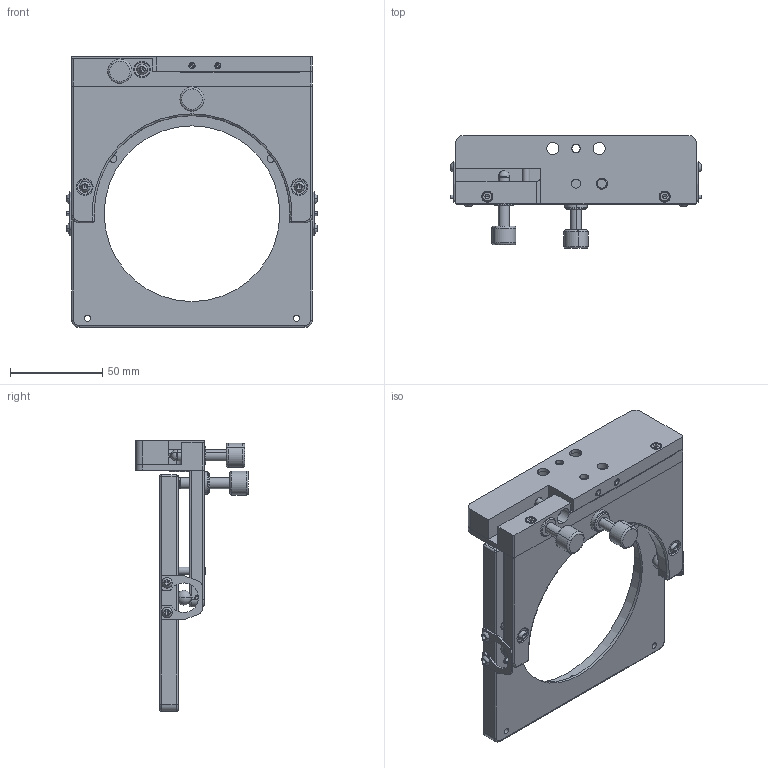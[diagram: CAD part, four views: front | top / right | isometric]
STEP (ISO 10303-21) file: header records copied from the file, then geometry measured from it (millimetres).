
FILE_DESCRIPTION (( 'STEP AP203' ), '1' );
FILE_NAME ('7MM08100謗峎覃淕噩殤.STEP', '2022-03-04T02:57:34', ( '' ), ( '' ), 'SwSTEP 2.0', 'SolidWorks 2018', '' );
FILE_SCHEMA (( 'CONFIG_CONTROL_DESIGN' ));
Length unit declared in the file: millimetre
Products named in the file (1): 7MM08100謗峎覃淕噩殤
Bounding box: 136 x 61 x 146.5 mm (x, y, z)
Volume: 189499 mm3; surface area: 79704.2 mm2
Topology: 52 solids, 52 shells, 908 faces, 2030 edges, 1220 vertices
Faces by surface type: plane 373, cylinder 333, cone 136, sphere 38, torus 28
Entity records: 25136 total; most frequent: DIRECTION 4641, CARTESIAN_POINT 4513, ORIENTED_EDGE 3908, EDGE_CURVE 1954, AXIS2_PLACEMENT_3D 1814, VERTEX_POINT 1208, EDGE_LOOP 1070, LINE 1013
